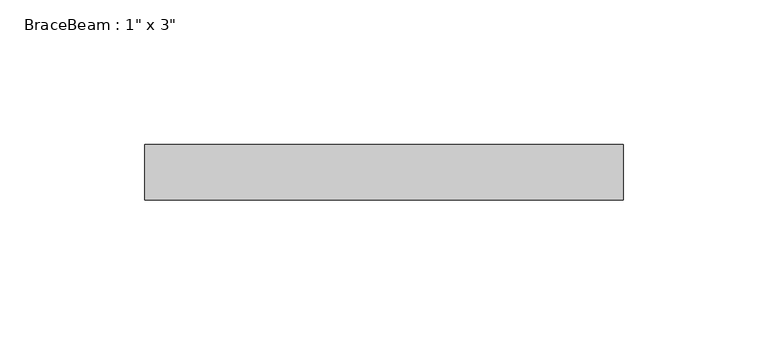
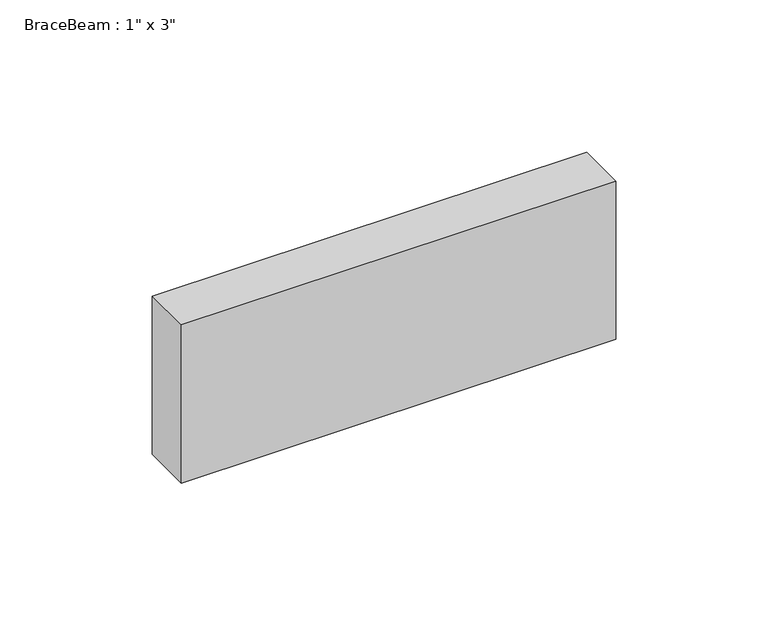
"""IFC4 building model written with IfcOpenShell, lengths in millimetres: beam geometry."""

from ifc_helpers import new_model, si_unit, frame, origin, place, context, project, spatial, polyline, outline, extrude, source, transform, mapped, element, save


def beam_3fbe4e3d(model_context):
    return source(origin(), model_context, "Body", "SweptSolid", [
        extrude(outline(polyline([(-77.6543554, 9.525), (87.1793554, 9.525), (87.1793554, -9.525), (-77.6543554, -9.525), (-77.6543554, 9.525)])), frame((0.0, 0.0, -31.75), z_axis=(0.0, 0.0, 1.0), x_axis=(1.0, 0.0, 0.0)), (0.0, 0.0, 1.0), 63.5),
    ])


if __name__ == "__main__":
    model = new_model("IFC4")
    model_context = context("Model", 3, world=origin())
    ifc_project = project(units=[si_unit("LENGTHUNIT", "METRE", prefix="MILLI")], contexts=[model_context])
    site = spatial("IfcSite", under=ifc_project)
    building = spatial("IfcBuilding", under=site)
    placement = place(None, origin())
    beam_shape = beam_3fbe4e3d(model_context)
    element("IfcBeam", 1, ObjectType="BraceBeam : 1\" x 3\"", at=placement, inside=building, context=model_context, shape_type="MappedRepresentation", body=[
        mapped(beam_shape, transform((0.0, 0.0, 0.0), x_axis=(1.0, 0.0, 0.0), y_axis=(0.0, 1.0, 0.0), z_axis=(0.0, 0.0, 1.0))),
    ])
    save(model, "model.ifc")
